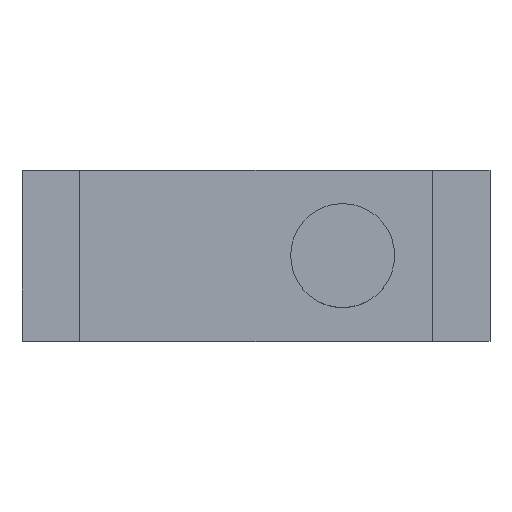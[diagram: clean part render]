
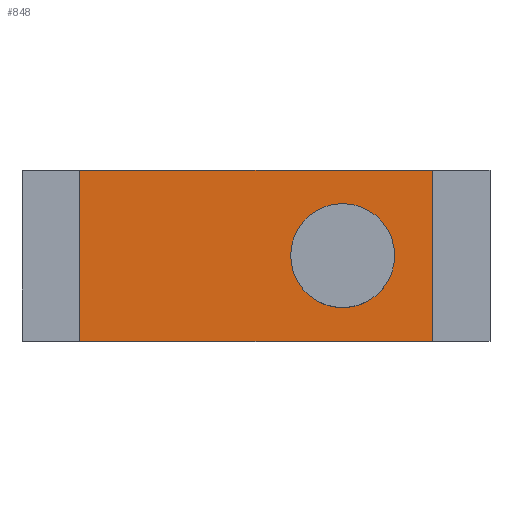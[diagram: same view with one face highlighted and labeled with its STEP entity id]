
A CAD part, top view. The second image highlights one B-rep face of the part: STEP entity #848.
In plain terms, the highlighted planar face has unit normal (0, 0, 1).
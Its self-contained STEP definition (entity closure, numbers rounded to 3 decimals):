
#44 = PLANE('',#45);
#45 = AXIS2_PLACEMENT_3D('',#46,#47,#48);
#46 = CARTESIAN_POINT('',(-20.35,-9.85,0.));
#47 = DIRECTION('',(0.,1.,0.));
#48 = DIRECTION('',(0.,0.,1.));
#100 = PLANE('',#101);
#101 = AXIS2_PLACEMENT_3D('',#102,#103,#104);
#102 = CARTESIAN_POINT('',(-20.35,9.85,0.));
#103 = DIRECTION('',(0.,1.,0.));
#104 = DIRECTION('',(0.,0.,1.));
#271 = VERTEX_POINT('',#272);
#272 = CARTESIAN_POINT('',(-20.35,-9.85,42.9));
#286 = PLANE('',#287);
#287 = AXIS2_PLACEMENT_3D('',#288,#289,#290);
#288 = CARTESIAN_POINT('',(-20.35,-9.85,0.));
#289 = DIRECTION('',(1.,0.,0.));
#290 = DIRECTION('',(0.,0.,1.));
#298 = EDGE_CURVE('',#271,#299,#301,.T.);
#299 = VERTEX_POINT('',#300);
#300 = CARTESIAN_POINT('',(20.35,-9.85,42.9));
#301 = SURFACE_CURVE('',#302,(#306,#313),.PCURVE_S1.);
#302 = LINE('',#303,#304);
#303 = CARTESIAN_POINT('',(-20.35,-9.85,42.9));
#304 = VECTOR('',#305,1.);
#305 = DIRECTION('',(1.,0.,0.));
#306 = PCURVE('',#44,#307);
#307 = DEFINITIONAL_REPRESENTATION('',(#308),#312);
#308 = LINE('',#309,#310);
#309 = CARTESIAN_POINT('',(42.9,0.));
#310 = VECTOR('',#311,1.);
#311 = DIRECTION('',(0.,1.));
#312 = ( GEOMETRIC_REPRESENTATION_CONTEXT(2) 
PARAMETRIC_REPRESENTATION_CONTEXT() REPRESENTATION_CONTEXT('2D SPACE',''
  ) );
#313 = PCURVE('',#314,#319);
#314 = PLANE('',#315);
#315 = AXIS2_PLACEMENT_3D('',#316,#317,#318);
#316 = CARTESIAN_POINT('',(-20.35,-9.85,42.9));
#317 = DIRECTION('',(0.,0.,1.));
#318 = DIRECTION('',(1.,0.,0.));
#319 = DEFINITIONAL_REPRESENTATION('',(#320),#324);
#320 = LINE('',#321,#322);
#321 = CARTESIAN_POINT('',(0.,0.));
#322 = VECTOR('',#323,1.);
#323 = DIRECTION('',(1.,0.));
#324 = ( GEOMETRIC_REPRESENTATION_CONTEXT(2) 
PARAMETRIC_REPRESENTATION_CONTEXT() REPRESENTATION_CONTEXT('2D SPACE',''
  ) );
#342 = PLANE('',#343);
#343 = AXIS2_PLACEMENT_3D('',#344,#345,#346);
#344 = CARTESIAN_POINT('',(20.35,-9.85,0.));
#345 = DIRECTION('',(1.,0.,0.));
#346 = DIRECTION('',(0.,0.,1.));
#583 = VERTEX_POINT('',#584);
#584 = CARTESIAN_POINT('',(-20.35,9.85,42.9));
#605 = EDGE_CURVE('',#583,#606,#608,.T.);
#606 = VERTEX_POINT('',#607);
#607 = CARTESIAN_POINT('',(20.35,9.85,42.9));
#608 = SURFACE_CURVE('',#609,(#613,#620),.PCURVE_S1.);
#609 = LINE('',#610,#611);
#610 = CARTESIAN_POINT('',(-20.35,9.85,42.9));
#611 = VECTOR('',#612,1.);
#612 = DIRECTION('',(1.,0.,0.));
#613 = PCURVE('',#100,#614);
#614 = DEFINITIONAL_REPRESENTATION('',(#615),#619);
#615 = LINE('',#616,#617);
#616 = CARTESIAN_POINT('',(42.9,0.));
#617 = VECTOR('',#618,1.);
#618 = DIRECTION('',(0.,1.));
#619 = ( GEOMETRIC_REPRESENTATION_CONTEXT(2) 
PARAMETRIC_REPRESENTATION_CONTEXT() REPRESENTATION_CONTEXT('2D SPACE',''
  ) );
#620 = PCURVE('',#314,#621);
#621 = DEFINITIONAL_REPRESENTATION('',(#622),#626);
#622 = LINE('',#623,#624);
#623 = CARTESIAN_POINT('',(0.,19.7));
#624 = VECTOR('',#625,1.);
#625 = DIRECTION('',(1.,0.));
#626 = ( GEOMETRIC_REPRESENTATION_CONTEXT(2) 
PARAMETRIC_REPRESENTATION_CONTEXT() REPRESENTATION_CONTEXT('2D SPACE',''
  ) );
#828 = EDGE_CURVE('',#271,#583,#829,.T.);
#829 = SURFACE_CURVE('',#830,(#834,#841),.PCURVE_S1.);
#830 = LINE('',#831,#832);
#831 = CARTESIAN_POINT('',(-20.35,-9.85,42.9));
#832 = VECTOR('',#833,1.);
#833 = DIRECTION('',(0.,1.,0.));
#834 = PCURVE('',#286,#835);
#835 = DEFINITIONAL_REPRESENTATION('',(#836),#840);
#836 = LINE('',#837,#838);
#837 = CARTESIAN_POINT('',(42.9,0.));
#838 = VECTOR('',#839,1.);
#839 = DIRECTION('',(0.,-1.));
#840 = ( GEOMETRIC_REPRESENTATION_CONTEXT(2) 
PARAMETRIC_REPRESENTATION_CONTEXT() REPRESENTATION_CONTEXT('2D SPACE',''
  ) );
#841 = PCURVE('',#314,#842);
#842 = DEFINITIONAL_REPRESENTATION('',(#843),#847);
#843 = LINE('',#844,#845);
#844 = CARTESIAN_POINT('',(0.,0.));
#845 = VECTOR('',#846,1.);
#846 = DIRECTION('',(0.,1.));
#847 = ( GEOMETRIC_REPRESENTATION_CONTEXT(2) 
PARAMETRIC_REPRESENTATION_CONTEXT() REPRESENTATION_CONTEXT('2D SPACE',''
  ) );
#848 = ADVANCED_FACE('',(#849,#875),#314,.T.);
#849 = FACE_BOUND('',#850,.T.);
#850 = EDGE_LOOP('',(#851,#852,#853,#874));
#851 = ORIENTED_EDGE('',*,*,#828,.F.);
#852 = ORIENTED_EDGE('',*,*,#298,.T.);
#853 = ORIENTED_EDGE('',*,*,#854,.T.);
#854 = EDGE_CURVE('',#299,#606,#855,.T.);
#855 = SURFACE_CURVE('',#856,(#860,#867),.PCURVE_S1.);
#856 = LINE('',#857,#858);
#857 = CARTESIAN_POINT('',(20.35,-9.85,42.9));
#858 = VECTOR('',#859,1.);
#859 = DIRECTION('',(0.,1.,0.));
#860 = PCURVE('',#314,#861);
#861 = DEFINITIONAL_REPRESENTATION('',(#862),#866);
#862 = LINE('',#863,#864);
#863 = CARTESIAN_POINT('',(40.7,0.));
#864 = VECTOR('',#865,1.);
#865 = DIRECTION('',(0.,1.));
#866 = ( GEOMETRIC_REPRESENTATION_CONTEXT(2) 
PARAMETRIC_REPRESENTATION_CONTEXT() REPRESENTATION_CONTEXT('2D SPACE',''
  ) );
#867 = PCURVE('',#342,#868);
#868 = DEFINITIONAL_REPRESENTATION('',(#869),#873);
#869 = LINE('',#870,#871);
#870 = CARTESIAN_POINT('',(42.9,0.));
#871 = VECTOR('',#872,1.);
#872 = DIRECTION('',(0.,-1.));
#873 = ( GEOMETRIC_REPRESENTATION_CONTEXT(2) 
PARAMETRIC_REPRESENTATION_CONTEXT() REPRESENTATION_CONTEXT('2D SPACE',''
  ) );
#874 = ORIENTED_EDGE('',*,*,#605,.F.);
#875 = FACE_BOUND('',#876,.T.);
#876 = EDGE_LOOP('',(#877));
#877 = ORIENTED_EDGE('',*,*,#878,.F.);
#878 = EDGE_CURVE('',#879,#879,#881,.T.);
#879 = VERTEX_POINT('',#880);
#880 = CARTESIAN_POINT('',(16.,0.,42.9));
#881 = SURFACE_CURVE('',#882,(#887,#894),.PCURVE_S1.);
#882 = CIRCLE('',#883,6.);
#883 = AXIS2_PLACEMENT_3D('',#884,#885,#886);
#884 = CARTESIAN_POINT('',(10.,0.,42.9));
#885 = DIRECTION('',(0.,0.,1.));
#886 = DIRECTION('',(1.,0.,0.));
#887 = PCURVE('',#314,#888);
#888 = DEFINITIONAL_REPRESENTATION('',(#889),#893);
#889 = CIRCLE('',#890,6.);
#890 = AXIS2_PLACEMENT_2D('',#891,#892);
#891 = CARTESIAN_POINT('',(30.35,9.85));
#892 = DIRECTION('',(1.,0.));
#893 = ( GEOMETRIC_REPRESENTATION_CONTEXT(2) 
PARAMETRIC_REPRESENTATION_CONTEXT() REPRESENTATION_CONTEXT('2D SPACE',''
  ) );
#894 = PCURVE('',#895,#900);
#895 = CYLINDRICAL_SURFACE('',#896,6.);
#896 = AXIS2_PLACEMENT_3D('',#897,#898,#899);
#897 = CARTESIAN_POINT('',(10.,0.,42.9));
#898 = DIRECTION('',(-0.,-0.,-1.));
#899 = DIRECTION('',(1.,0.,0.));
#900 = DEFINITIONAL_REPRESENTATION('',(#901),#905);
#901 = LINE('',#902,#903);
#902 = CARTESIAN_POINT('',(-0.,0.));
#903 = VECTOR('',#904,1.);
#904 = DIRECTION('',(-1.,0.));
#905 = ( GEOMETRIC_REPRESENTATION_CONTEXT(2) 
PARAMETRIC_REPRESENTATION_CONTEXT() REPRESENTATION_CONTEXT('2D SPACE',''
  ) );
